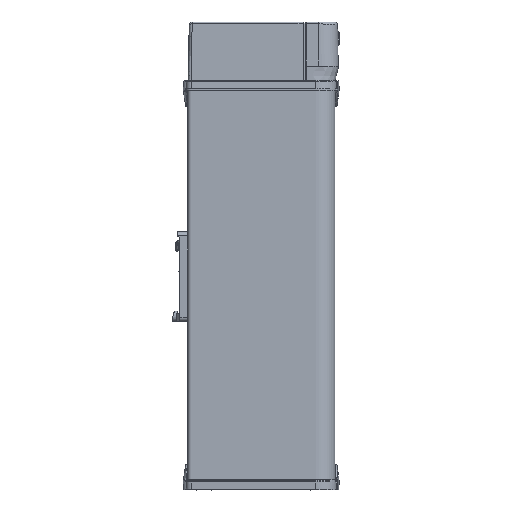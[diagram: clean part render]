
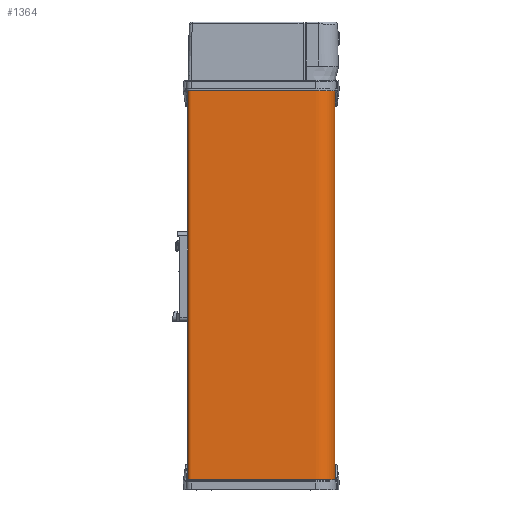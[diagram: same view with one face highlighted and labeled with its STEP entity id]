
A CAD part, left-side view. The second image highlights one B-rep face of the part: STEP entity #1364.
In plain terms, the highlighted free-form (B-spline) face has degree [3, 1] with [22, 2] control points.
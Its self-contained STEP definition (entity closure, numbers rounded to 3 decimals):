
#1364=ADVANCED_FACE($,(#2616),#16781,.T.);
#2616=FACE_OUTER_BOUND($,#3944,.T.);
#3944=EDGE_LOOP($,(#10055,#10056,#10057,#10058));
#10055=ORIENTED_EDGE($,*,*,#13408,.F.);
#10056=ORIENTED_EDGE($,*,*,#13419,.T.);
#10057=ORIENTED_EDGE($,*,*,#13420,.T.);
#10058=ORIENTED_EDGE($,*,*,#13421,.T.);
#13408=EDGE_CURVE($,#15518,#15528,#20101,.T.);
#13419=EDGE_CURVE($,#15518,#15529,#18330,.T.);
#13420=EDGE_CURVE($,#15529,#15530,#20112,.T.);
#13421=EDGE_CURVE($,#15530,#15528,#18331,.T.);
#15518=VERTEX_POINT($,#42945);
#15528=VERTEX_POINT($,#42955);
#15529=VERTEX_POINT($,#42956);
#15530=VERTEX_POINT($,#42957);
#16781=(
BOUNDED_SURFACE()
B_SPLINE_SURFACE(3,1,((#42646,#42647),(#42648,#42649),(#42650,#42651),(#42652,
#42653),(#42654,#42655),(#42656,#42657),(#42658,#42659),(#42660,#42661),
(#42662,#42663),(#42664,#42665),(#42666,#42667),(#42668,#42669),(#42670,
#42671),(#42672,#42673),(#42674,#42675),(#42676,#42677),(#42678,#42679),
(#42680,#42681),(#42682,#42683),(#42684,#42685),(#42686,#42687),(#42688,
#42689)),.UNSPECIFIED.,.F.,.F.,.F.)
B_SPLINE_SURFACE_WITH_KNOTS((4,3,3,3,3,3,3,4),(2,2),(-253.452,-253.157,
-252.686,-230.486,-227.344,-164.344,
-148.636,-134.436),(0.,200.),.UNSPECIFIED.)
GEOMETRIC_REPRESENTATION_ITEM()
RATIONAL_B_SPLINE_SURFACE(((1.,1.),(1.,1.),(1.,1.),(1.,1.),(0.805,
0.805),(0.805,0.805),(1.,1.),(1.,1.),
(1.,1.),(1.,1.),(0.805,0.805),(0.805,
0.805),(1.,1.),(1.,1.),(1.,1.),(1.,1.),(0.805,0.805),
(0.805,0.805),(1.,1.),(1.,1.),(1.,1.),(1.,1.)))
REPRESENTATION_ITEM($)
SURFACE()
);
#18330=B_SPLINE_CURVE_WITH_KNOTS($,1,(#42474,#42475),.UNSPECIFIED.,.F.,.F.,
(2,2),(0.,200.),.UNSPECIFIED.);
#18331=B_SPLINE_CURVE_WITH_KNOTS($,1,(#42498,#42499),.UNSPECIFIED.,.F.,.F.,
(2,2),(-200.,0.),.UNSPECIFIED.);
#20101=(
BOUNDED_CURVE()
B_SPLINE_CURVE(3,(#42325,#42326,#42327,#42328,#42329,#42330,#42331,#42332,
#42333,#42334,#42335,#42336,#42337,#42338,#42339,#42340,#42341,#42342,#42343,
#42344,#42345,#42346),.UNSPECIFIED.,.F.,.F.)
B_SPLINE_CURVE_WITH_KNOTS((4,3,3,3,3,3,3,4),(134.436,148.636,
164.344,227.344,230.486,252.686,253.157,
253.452),.UNSPECIFIED.)
CURVE()
GEOMETRIC_REPRESENTATION_ITEM()
RATIONAL_B_SPLINE_CURVE((1.,1.,1.,1.,0.805,0.805,
1.,1.,1.,1.,0.805,0.805,1.,1.,1.,1.,0.805,
0.805,1.,1.,1.,1.))
REPRESENTATION_ITEM($)
);
#20112=(
BOUNDED_CURVE()
B_SPLINE_CURVE(3,(#42476,#42477,#42478,#42479,#42480,#42481,#42482,#42483,
#42484,#42485,#42486,#42487,#42488,#42489,#42490,#42491,#42492,#42493,#42494,
#42495,#42496,#42497),.UNSPECIFIED.,.F.,.F.)
B_SPLINE_CURVE_WITH_KNOTS((4,3,3,3,3,3,3,4),(134.436,148.636,
164.344,227.344,230.486,252.686,253.157,
253.452),.UNSPECIFIED.)
CURVE()
GEOMETRIC_REPRESENTATION_ITEM()
RATIONAL_B_SPLINE_CURVE((1.,1.,1.,1.,0.805,0.805,
1.,1.,1.,1.,0.805,0.805,1.,1.,1.,1.,0.805,
0.805,1.,1.,1.,1.))
REPRESENTATION_ITEM($)
);
#42325=CARTESIAN_POINT($,(194.116,-37.508,-200.));
#42326=CARTESIAN_POINT($,(189.383,-37.508,-200.));
#42327=CARTESIAN_POINT($,(184.65,-37.508,-200.));
#42328=CARTESIAN_POINT($,(179.916,-37.508,-200.));
#42329=CARTESIAN_POINT($,(174.058,-37.508,-200.));
#42330=CARTESIAN_POINT($,(169.916,-33.366,-200.));
#42331=CARTESIAN_POINT($,(169.916,-27.508,-200.));
#42332=CARTESIAN_POINT($,(169.916,-6.508,-200.));
#42333=CARTESIAN_POINT($,(169.916,14.492,-200.));
#42334=CARTESIAN_POINT($,(169.916,35.492,-200.));
#42335=CARTESIAN_POINT($,(169.916,36.663,-200.));
#42336=CARTESIAN_POINT($,(170.745,37.492,-200.));
#42337=CARTESIAN_POINT($,(171.916,37.492,-200.));
#42338=CARTESIAN_POINT($,(179.316,37.492,-200.));
#42339=CARTESIAN_POINT($,(186.716,37.492,-200.));
#42340=CARTESIAN_POINT($,(194.116,37.492,-200.));
#42341=CARTESIAN_POINT($,(194.292,37.492,-200.));
#42342=CARTESIAN_POINT($,(194.416,37.368,-200.));
#42343=CARTESIAN_POINT($,(194.416,37.192,-200.));
#42344=CARTESIAN_POINT($,(194.416,37.094,-200.));
#42345=CARTESIAN_POINT($,(194.416,36.995,-200.));
#42346=CARTESIAN_POINT($,(194.416,36.897,-200.));
#42474=CARTESIAN_POINT($,(194.116,-37.508,-200.));
#42475=CARTESIAN_POINT($,(194.116,-37.508,0.));
#42476=CARTESIAN_POINT($,(194.116,-37.508,0.));
#42477=CARTESIAN_POINT($,(189.383,-37.508,0.));
#42478=CARTESIAN_POINT($,(184.65,-37.508,0.));
#42479=CARTESIAN_POINT($,(179.916,-37.508,0.));
#42480=CARTESIAN_POINT($,(174.058,-37.508,0.));
#42481=CARTESIAN_POINT($,(169.916,-33.366,0.));
#42482=CARTESIAN_POINT($,(169.916,-27.508,0.));
#42483=CARTESIAN_POINT($,(169.916,-6.508,0.));
#42484=CARTESIAN_POINT($,(169.916,14.492,0.));
#42485=CARTESIAN_POINT($,(169.916,35.492,0.));
#42486=CARTESIAN_POINT($,(169.916,36.663,0.));
#42487=CARTESIAN_POINT($,(170.745,37.492,0.));
#42488=CARTESIAN_POINT($,(171.916,37.492,0.));
#42489=CARTESIAN_POINT($,(179.316,37.492,0.));
#42490=CARTESIAN_POINT($,(186.716,37.492,0.));
#42491=CARTESIAN_POINT($,(194.116,37.492,0.));
#42492=CARTESIAN_POINT($,(194.292,37.492,0.));
#42493=CARTESIAN_POINT($,(194.416,37.368,0.));
#42494=CARTESIAN_POINT($,(194.416,37.192,0.));
#42495=CARTESIAN_POINT($,(194.416,37.094,0.));
#42496=CARTESIAN_POINT($,(194.416,36.995,0.));
#42497=CARTESIAN_POINT($,(194.416,36.897,0.));
#42498=CARTESIAN_POINT($,(194.416,36.897,0.));
#42499=CARTESIAN_POINT($,(194.416,36.897,-200.));
#42646=CARTESIAN_POINT($,(194.416,36.897,-200.));
#42647=CARTESIAN_POINT($,(194.416,36.897,0.));
#42648=CARTESIAN_POINT($,(194.416,36.995,-200.));
#42649=CARTESIAN_POINT($,(194.416,36.995,0.));
#42650=CARTESIAN_POINT($,(194.416,37.094,-200.));
#42651=CARTESIAN_POINT($,(194.416,37.094,0.));
#42652=CARTESIAN_POINT($,(194.416,37.192,-200.));
#42653=CARTESIAN_POINT($,(194.416,37.192,0.));
#42654=CARTESIAN_POINT($,(194.416,37.368,-200.));
#42655=CARTESIAN_POINT($,(194.416,37.368,0.));
#42656=CARTESIAN_POINT($,(194.292,37.492,-200.));
#42657=CARTESIAN_POINT($,(194.292,37.492,0.));
#42658=CARTESIAN_POINT($,(194.116,37.492,-200.));
#42659=CARTESIAN_POINT($,(194.116,37.492,0.));
#42660=CARTESIAN_POINT($,(186.716,37.492,-200.));
#42661=CARTESIAN_POINT($,(186.716,37.492,0.));
#42662=CARTESIAN_POINT($,(179.316,37.492,-200.));
#42663=CARTESIAN_POINT($,(179.316,37.492,0.));
#42664=CARTESIAN_POINT($,(171.916,37.492,-200.));
#42665=CARTESIAN_POINT($,(171.916,37.492,0.));
#42666=CARTESIAN_POINT($,(170.745,37.492,-200.));
#42667=CARTESIAN_POINT($,(170.745,37.492,0.));
#42668=CARTESIAN_POINT($,(169.916,36.663,-200.));
#42669=CARTESIAN_POINT($,(169.916,36.663,0.));
#42670=CARTESIAN_POINT($,(169.916,35.492,-200.));
#42671=CARTESIAN_POINT($,(169.916,35.492,0.));
#42672=CARTESIAN_POINT($,(169.916,14.492,-200.));
#42673=CARTESIAN_POINT($,(169.916,14.492,0.));
#42674=CARTESIAN_POINT($,(169.916,-6.508,-200.));
#42675=CARTESIAN_POINT($,(169.916,-6.508,0.));
#42676=CARTESIAN_POINT($,(169.916,-27.508,-200.));
#42677=CARTESIAN_POINT($,(169.916,-27.508,0.));
#42678=CARTESIAN_POINT($,(169.916,-33.366,-200.));
#42679=CARTESIAN_POINT($,(169.916,-33.366,0.));
#42680=CARTESIAN_POINT($,(174.058,-37.508,-200.));
#42681=CARTESIAN_POINT($,(174.058,-37.508,0.));
#42682=CARTESIAN_POINT($,(179.916,-37.508,-200.));
#42683=CARTESIAN_POINT($,(179.916,-37.508,0.));
#42684=CARTESIAN_POINT($,(184.65,-37.508,-200.));
#42685=CARTESIAN_POINT($,(184.65,-37.508,0.));
#42686=CARTESIAN_POINT($,(189.383,-37.508,-200.));
#42687=CARTESIAN_POINT($,(189.383,-37.508,0.));
#42688=CARTESIAN_POINT($,(194.116,-37.508,-200.));
#42689=CARTESIAN_POINT($,(194.116,-37.508,0.));
#42945=CARTESIAN_POINT($,(194.116,-37.508,-200.));
#42955=CARTESIAN_POINT($,(194.416,36.897,-200.));
#42956=CARTESIAN_POINT($,(194.116,-37.508,0.));
#42957=CARTESIAN_POINT($,(194.416,36.897,0.));
